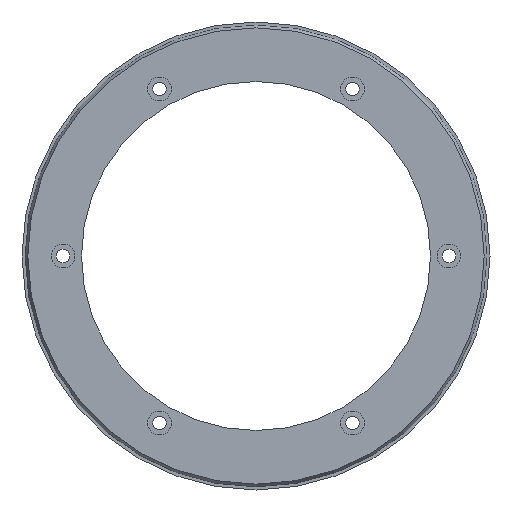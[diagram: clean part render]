
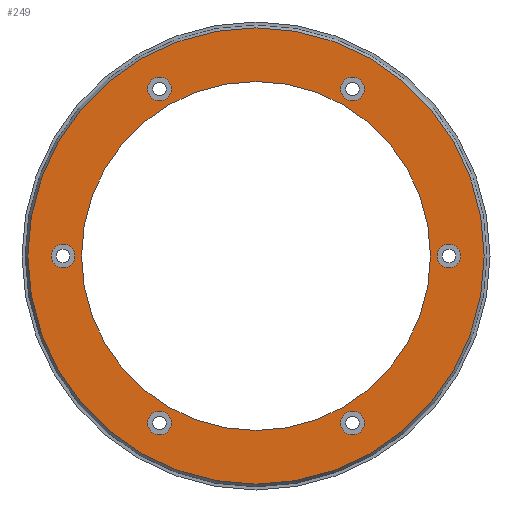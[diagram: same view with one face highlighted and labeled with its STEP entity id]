
A CAD part, left-side view. The second image highlights one B-rep face of the part: STEP entity #249.
In plain terms, the highlighted planar face has unit normal (-1, 0, 0).
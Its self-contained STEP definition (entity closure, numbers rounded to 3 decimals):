
#141=CARTESIAN_POINT('',(-13.36,74.534,0.));
#142=VERTEX_POINT('',#141);
#143=CARTESIAN_POINT('',(-13.36,0.,0.0));
#144=DIRECTION('',(1.0,0.0,0.0));
#145=DIRECTION('',(0.0,-1.0,0.0));
#146=AXIS2_PLACEMENT_3D('',#143,#144,#145);
#147=CIRCLE('',#146,74.534);
#148=EDGE_CURVE('',#142,#142,#147,.T.);
#164=CARTESIAN_POINT('',(-13.36,66.2,0.0));
#165=DIRECTION('',(-1.0,0.0,0.0));
#166=DIRECTION('',(0.0,0.0,1.0));
#167=AXIS2_PLACEMENT_3D('',#164,#165,#166);
#168=PLANE('',#167);
#169=ORIENTED_EDGE('',*,*,#148,.F.);
#170=EDGE_LOOP('',(#169));
#171=FACE_OUTER_BOUND('',#170,.T.);
#172=CARTESIAN_POINT('',(-13.36,57.0,0.0));
#173=VERTEX_POINT('',#172);
#174=CARTESIAN_POINT('',(-13.36,0.,0.0));
#175=DIRECTION('',(1.0,0.0,0.0));
#176=DIRECTION('',(0.0,1.0,0.0));
#177=AXIS2_PLACEMENT_3D('',#174,#175,#176);
#178=CIRCLE('',#177,57.0);
#179=EDGE_CURVE('',#173,#173,#178,.T.);
#180=ORIENTED_EDGE('',*,*,#179,.T.);
#181=EDGE_LOOP('',(#180));
#182=FACE_BOUND('',#181,.T.);
#183=CARTESIAN_POINT('',(-13.36,63.,3.85));
#184=VERTEX_POINT('',#183);
#185=CARTESIAN_POINT('',(-13.36,63.,0.0));
#186=DIRECTION('',(1.0,0.0,0.0));
#187=DIRECTION('',(0.0,0.0,1.0));
#188=AXIS2_PLACEMENT_3D('',#185,#186,#187);
#189=CIRCLE('',#188,3.85);
#190=EDGE_CURVE('',#184,#184,#189,.T.);
#191=ORIENTED_EDGE('',*,*,#190,.T.);
#192=EDGE_LOOP('',(#191));
#193=FACE_BOUND('',#192,.T.);
#194=CARTESIAN_POINT('',(-13.36,34.834,-52.635));
#195=VERTEX_POINT('',#194);
#196=CARTESIAN_POINT('',(-13.36,31.5,-54.56));
#197=DIRECTION('',(1.0,0.,0.));
#198=DIRECTION('',(0.,0.866,0.5));
#199=AXIS2_PLACEMENT_3D('',#196,#197,#198);
#200=CIRCLE('',#199,3.85);
#201=EDGE_CURVE('',#195,#195,#200,.T.);
#202=ORIENTED_EDGE('',*,*,#201,.T.);
#203=EDGE_LOOP('',(#202));
#204=FACE_BOUND('',#203,.T.);
#205=CARTESIAN_POINT('',(-13.36,28.166,56.485));
#206=VERTEX_POINT('',#205);
#207=CARTESIAN_POINT('',(-13.36,31.5,54.56));
#208=DIRECTION('',(1.0,0.,0.));
#209=DIRECTION('',(0.,-0.866,0.5));
#210=AXIS2_PLACEMENT_3D('',#207,#208,#209);
#211=CIRCLE('',#210,3.85);
#212=EDGE_CURVE('',#206,#206,#211,.T.);
#213=ORIENTED_EDGE('',*,*,#212,.T.);
#214=EDGE_LOOP('',(#213));
#215=FACE_BOUND('',#214,.T.);
#216=CARTESIAN_POINT('',(-13.36,-34.834,52.635));
#217=VERTEX_POINT('',#216);
#218=CARTESIAN_POINT('',(-13.36,-31.5,54.56));
#219=DIRECTION('',(1.,0.,0.));
#220=DIRECTION('',(0.,-0.866,-0.5));
#221=AXIS2_PLACEMENT_3D('',#218,#219,#220);
#222=CIRCLE('',#221,3.85);
#223=EDGE_CURVE('',#217,#217,#222,.T.);
#224=ORIENTED_EDGE('',*,*,#223,.T.);
#225=EDGE_LOOP('',(#224));
#226=FACE_BOUND('',#225,.T.);
#227=CARTESIAN_POINT('',(-13.36,-63.,-3.85));
#228=VERTEX_POINT('',#227);
#229=CARTESIAN_POINT('',(-13.36,-63.,0.));
#230=DIRECTION('',(1.0,0.0,0.0));
#231=DIRECTION('',(0.0,0.0,-1.0));
#232=AXIS2_PLACEMENT_3D('',#229,#230,#231);
#233=CIRCLE('',#232,3.85);
#234=EDGE_CURVE('',#228,#228,#233,.T.);
#235=ORIENTED_EDGE('',*,*,#234,.T.);
#236=EDGE_LOOP('',(#235));
#237=FACE_BOUND('',#236,.T.);
#238=CARTESIAN_POINT('',(-13.36,-28.166,-56.485));
#239=VERTEX_POINT('',#238);
#240=CARTESIAN_POINT('',(-13.36,-31.5,-54.56));
#241=DIRECTION('',(1.0,0.,0.));
#242=DIRECTION('',(0.,0.866,-0.5));
#243=AXIS2_PLACEMENT_3D('',#240,#241,#242);
#244=CIRCLE('',#243,3.85);
#245=EDGE_CURVE('',#239,#239,#244,.T.);
#246=ORIENTED_EDGE('',*,*,#245,.T.);
#247=EDGE_LOOP('',(#246));
#248=FACE_BOUND('',#247,.T.);
#249=ADVANCED_FACE('',(#171,#182,#193,#204,#215,#226,#237,#248),#168,.T.);
